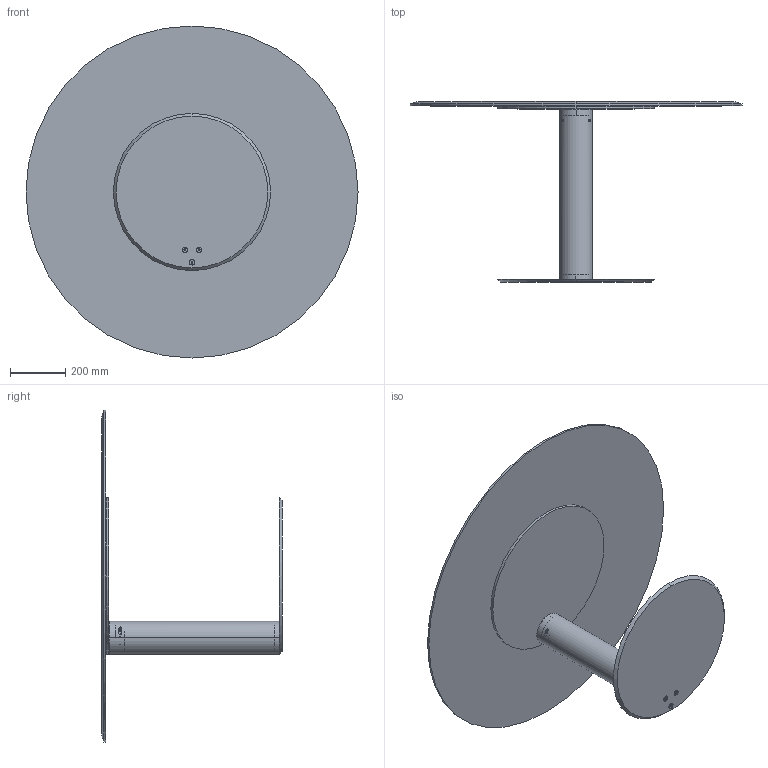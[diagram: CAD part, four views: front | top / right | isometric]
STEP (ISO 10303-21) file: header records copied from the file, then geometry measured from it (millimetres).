
FILE_DESCRIPTION (( 'STEP AP214' ), '1' );
FILE_NAME ('Ø120_LOUNGE.STEP', '2026-04-02T06:50:16', ( '' ), ( '' ), 'SwSTEP 2.0', 'SolidWorks 2025', '' );
FILE_SCHEMA (( 'AUTOMOTIVE_DESIGN' ));
Length unit declared in the file: millimetre
Products named in the file (12): OTO_piastra superiore_Ø568mm; OTO_colonnaØ120_colonna LOUNGE; OTO_colonna interna Ø80_colonna interna_LOUNGE; Ø120_LOUNGE; piano_Ø120; OTO_anello piastra sup; socket countersunk head screw_am_B18.3.5M - 10 x 1.5 x 40 Socket FCHS  -- 40N; OTO_anello fissaggio piastra sup; OTO_piastra inferiore svasata_Ø568mm; OTO_blocchetto FE da saldare; socket head cap screw_am_B18.3.1M - 8 x 1.25 x 16 Hex SHCS -- 16NHX; socket countersunk head screw_am_B18.3.5M - 8 x 1.25 x 25 Socket FCHS  -- 25C
Assembly tree (17 placements, depth 2):
  Ø120_LOUNGE
    OTO_colonna interna Ø80_colonna interna_LOUNGE
    OTO_blocchetto FE da saldare
    OTO_colonnaØ120_colonna LOUNGE
    OTO_anello fissaggio piastra sup
    OTO_anello piastra sup
    OTO_piastra inferiore svasata_Ø568mm
    OTO_piastra superiore_Ø568mm
    socket countersunk head screw_am_B18.3.5M - 8 x 1.25 x 25 Socket FCHS  -- 25C  x4
    piano_Ø120
    socket countersunk head screw_am_B18.3.5M - 10 x 1.5 x 40 Socket FCHS  -- 40N  x3
    socket head cap screw_am_B18.3.1M - 8 x 1.25 x 16 Hex SHCS -- 16NHX  x2
Bounding box: 1200 x 653.2 x 1200 mm (x, y, z)
Volume: 23034783.3 mm3; surface area: 4189365.2 mm2
Topology: 17 solids, 17 shells, 374 faces, 823 edges, 473 vertices
Faces by surface type: plane 152, cylinder 102, cone 102, torus 18
Entity records: 6856 total; most frequent: CARTESIAN_POINT 1481, DIRECTION 1157, ORIENTED_EDGE 938, EDGE_CURVE 469, AXIS2_PLACEMENT_3D 463, VERTEX_POINT 285, EDGE_LOOP 264, VECTOR 231
